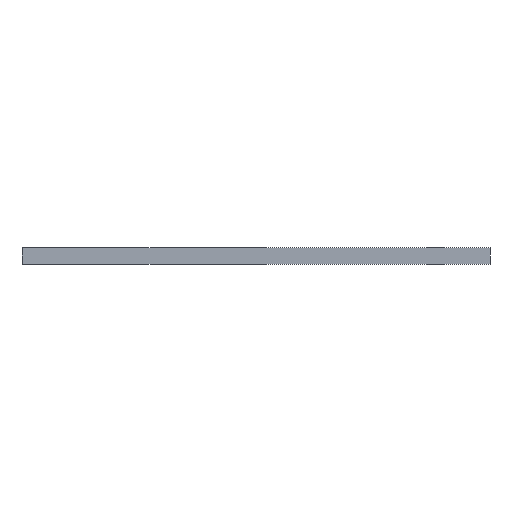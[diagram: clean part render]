
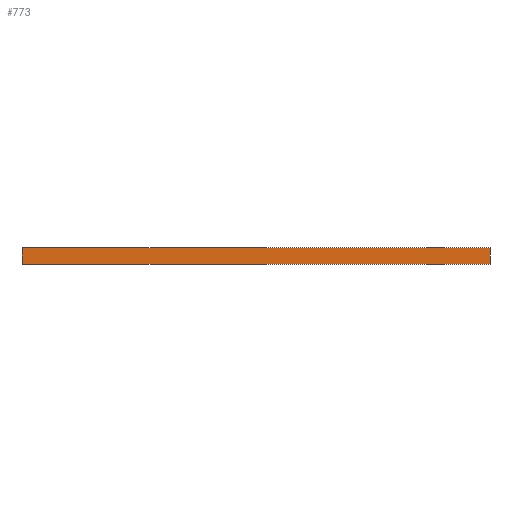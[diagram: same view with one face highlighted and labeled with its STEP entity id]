
A CAD part, left-side view. The second image highlights one B-rep face of the part: STEP entity #773.
In plain terms, the highlighted planar face has unit normal (-1, 0, 0).
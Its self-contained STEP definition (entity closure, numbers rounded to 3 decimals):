
#21 = EDGE_CURVE('',#22,#24,#26,.T.);
#22 = VERTEX_POINT('',#23);
#23 = CARTESIAN_POINT('',(0.,0.,0.));
#24 = VERTEX_POINT('',#25);
#25 = CARTESIAN_POINT('',(0.,500.,0.));
#26 = SURFACE_CURVE('',#27,(#31,#43),.PCURVE_S1.);
#27 = LINE('',#28,#29);
#28 = CARTESIAN_POINT('',(0.,0.,0.));
#29 = VECTOR('',#30,1.);
#30 = DIRECTION('',(0.,1.,0.));
#31 = PCURVE('',#32,#37);
#32 = PLANE('',#33);
#33 = AXIS2_PLACEMENT_3D('',#34,#35,#36);
#34 = CARTESIAN_POINT('',(0.,0.,0.));
#35 = DIRECTION('',(0.,0.,-1.));
#36 = DIRECTION('',(1.,0.,0.));
#37 = DEFINITIONAL_REPRESENTATION('',(#38),#42);
#38 = LINE('',#39,#40);
#39 = CARTESIAN_POINT('',(0.,0.));
#40 = VECTOR('',#41,1.);
#41 = DIRECTION('',(0.,-1.));
#42 = ( GEOMETRIC_REPRESENTATION_CONTEXT(2) 
PARAMETRIC_REPRESENTATION_CONTEXT() REPRESENTATION_CONTEXT('2D SPACE',''
  ) );
#43 = PCURVE('',#44,#49);
#44 = PLANE('',#45);
#45 = AXIS2_PLACEMENT_3D('',#46,#47,#48);
#46 = CARTESIAN_POINT('',(0.,0.,18.));
#47 = DIRECTION('',(-1.,0.,0.));
#48 = DIRECTION('',(0.,0.,-1.));
#49 = DEFINITIONAL_REPRESENTATION('',(#50),#54);
#50 = LINE('',#51,#52);
#51 = CARTESIAN_POINT('',(18.,0.));
#52 = VECTOR('',#53,1.);
#53 = DIRECTION('',(0.,-1.));
#54 = ( GEOMETRIC_REPRESENTATION_CONTEXT(2) 
PARAMETRIC_REPRESENTATION_CONTEXT() REPRESENTATION_CONTEXT('2D SPACE',''
  ) );
#72 = PLANE('',#73);
#73 = AXIS2_PLACEMENT_3D('',#74,#75,#76);
#74 = CARTESIAN_POINT('',(250.,500.,9.));
#75 = DIRECTION('',(-0.,-1.,-0.));
#76 = DIRECTION('',(0.,0.,-1.));
#126 = PLANE('',#127);
#127 = AXIS2_PLACEMENT_3D('',#128,#129,#130);
#128 = CARTESIAN_POINT('',(250.,0.,9.));
#129 = DIRECTION('',(-0.,-1.,-0.));
#130 = DIRECTION('',(0.,0.,-1.));
#773 = ADVANCED_FACE('',(#774),#44,.T.);
#774 = FACE_BOUND('',#775,.T.);
#775 = EDGE_LOOP('',(#776,#806,#827,#828));
#776 = ORIENTED_EDGE('',*,*,#777,.T.);
#777 = EDGE_CURVE('',#778,#780,#782,.T.);
#778 = VERTEX_POINT('',#779);
#779 = CARTESIAN_POINT('',(0.,0.,18.));
#780 = VERTEX_POINT('',#781);
#781 = CARTESIAN_POINT('',(0.,500.,18.));
#782 = SURFACE_CURVE('',#783,(#787,#794),.PCURVE_S1.);
#783 = LINE('',#784,#785);
#784 = CARTESIAN_POINT('',(0.,0.,18.));
#785 = VECTOR('',#786,1.);
#786 = DIRECTION('',(0.,1.,0.));
#787 = PCURVE('',#44,#788);
#788 = DEFINITIONAL_REPRESENTATION('',(#789),#793);
#789 = LINE('',#790,#791);
#790 = CARTESIAN_POINT('',(0.,-0.));
#791 = VECTOR('',#792,1.);
#792 = DIRECTION('',(0.,-1.));
#793 = ( GEOMETRIC_REPRESENTATION_CONTEXT(2) 
PARAMETRIC_REPRESENTATION_CONTEXT() REPRESENTATION_CONTEXT('2D SPACE',''
  ) );
#794 = PCURVE('',#795,#800);
#795 = PLANE('',#796);
#796 = AXIS2_PLACEMENT_3D('',#797,#798,#799);
#797 = CARTESIAN_POINT('',(500.,0.,18.));
#798 = DIRECTION('',(0.,-0.,1.));
#799 = DIRECTION('',(-1.,0.,0.));
#800 = DEFINITIONAL_REPRESENTATION('',(#801),#805);
#801 = LINE('',#802,#803);
#802 = CARTESIAN_POINT('',(500.,0.));
#803 = VECTOR('',#804,1.);
#804 = DIRECTION('',(0.,-1.));
#805 = ( GEOMETRIC_REPRESENTATION_CONTEXT(2) 
PARAMETRIC_REPRESENTATION_CONTEXT() REPRESENTATION_CONTEXT('2D SPACE',''
  ) );
#806 = ORIENTED_EDGE('',*,*,#807,.T.);
#807 = EDGE_CURVE('',#780,#24,#808,.T.);
#808 = SURFACE_CURVE('',#809,(#813,#820),.PCURVE_S1.);
#809 = LINE('',#810,#811);
#810 = CARTESIAN_POINT('',(0.,500.,18.));
#811 = VECTOR('',#812,1.);
#812 = DIRECTION('',(0.,0.,-1.));
#813 = PCURVE('',#44,#814);
#814 = DEFINITIONAL_REPRESENTATION('',(#815),#819);
#815 = LINE('',#816,#817);
#816 = CARTESIAN_POINT('',(0.,-500.));
#817 = VECTOR('',#818,1.);
#818 = DIRECTION('',(1.,0.));
#819 = ( GEOMETRIC_REPRESENTATION_CONTEXT(2) 
PARAMETRIC_REPRESENTATION_CONTEXT() REPRESENTATION_CONTEXT('2D SPACE',''
  ) );
#820 = PCURVE('',#72,#821);
#821 = DEFINITIONAL_REPRESENTATION('',(#822),#826);
#822 = LINE('',#823,#824);
#823 = CARTESIAN_POINT('',(-9.,-250.));
#824 = VECTOR('',#825,1.);
#825 = DIRECTION('',(1.,0.));
#826 = ( GEOMETRIC_REPRESENTATION_CONTEXT(2) 
PARAMETRIC_REPRESENTATION_CONTEXT() REPRESENTATION_CONTEXT('2D SPACE',''
  ) );
#827 = ORIENTED_EDGE('',*,*,#21,.F.);
#828 = ORIENTED_EDGE('',*,*,#829,.F.);
#829 = EDGE_CURVE('',#778,#22,#830,.T.);
#830 = SURFACE_CURVE('',#831,(#835,#842),.PCURVE_S1.);
#831 = LINE('',#832,#833);
#832 = CARTESIAN_POINT('',(0.,0.,18.));
#833 = VECTOR('',#834,1.);
#834 = DIRECTION('',(0.,0.,-1.));
#835 = PCURVE('',#44,#836);
#836 = DEFINITIONAL_REPRESENTATION('',(#837),#841);
#837 = LINE('',#838,#839);
#838 = CARTESIAN_POINT('',(0.,-0.));
#839 = VECTOR('',#840,1.);
#840 = DIRECTION('',(1.,0.));
#841 = ( GEOMETRIC_REPRESENTATION_CONTEXT(2) 
PARAMETRIC_REPRESENTATION_CONTEXT() REPRESENTATION_CONTEXT('2D SPACE',''
  ) );
#842 = PCURVE('',#126,#843);
#843 = DEFINITIONAL_REPRESENTATION('',(#844),#848);
#844 = LINE('',#845,#846);
#845 = CARTESIAN_POINT('',(-9.,-250.));
#846 = VECTOR('',#847,1.);
#847 = DIRECTION('',(1.,0.));
#848 = ( GEOMETRIC_REPRESENTATION_CONTEXT(2) 
PARAMETRIC_REPRESENTATION_CONTEXT() REPRESENTATION_CONTEXT('2D SPACE',''
  ) );
